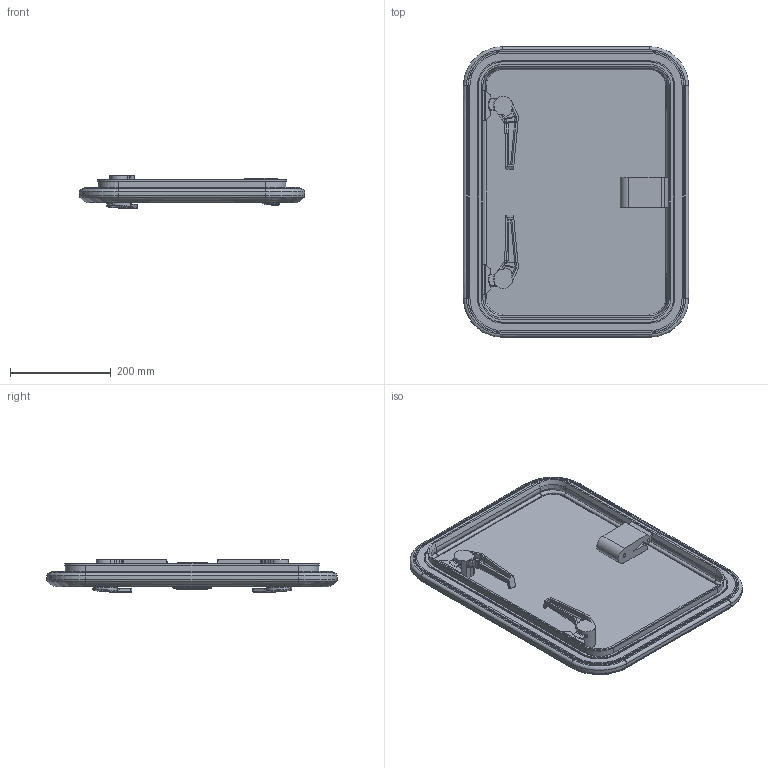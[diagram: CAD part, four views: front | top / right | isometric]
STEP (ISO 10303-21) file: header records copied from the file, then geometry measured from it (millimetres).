
FILE_DESCRIPTION((''),'2;1');
FILE_NAME('LEWMAR-HATCH-MEDPRO-50_ASM','2008-02-04T',('skennedy'),(''),'PRO/ENGINEER BY PARAMETRIC TECHNOLOGY CORPORATION, 2007030','PRO/ENGINEER BY PARAMETRIC TECHNOLOGY CORPORATION, 2007030','');
FILE_SCHEMA(('CONFIG_CONTROL_DESIGN'));
Length unit declared in the file: millimetre
Products named in the file (6): FRAME_MP_50; 3595043X; HANDLE_LHS; HANDLE_RHS; HINGE_LEVER; LEWMAR-HATCH-MEDPRO-50_ASM
Assembly tree (5 placements, depth 2):
  LEWMAR-HATCH-MEDPRO-50_ASM
    FRAME_MP_50
    3595043X
    HANDLE_LHS
    HANDLE_RHS
    HINGE_LEVER
Bounding box: 448 x 578 x 65.24 mm (x, y, z)
Volume: 2763348.7 mm3; surface area: 909563.4 mm2
Topology: 3 solids, 5 shells, 991 faces, 2530 edges, 1562 vertices
Faces by surface type: plane 368, bspline 299, cylinder 189, torus 43, cone 37, extrusion 35, sphere 20
Entity records: 41393 total; most frequent: CARTESIAN_POINT 19701, ORIENTED_EDGE 5026, DIRECTION 3548, EDGE_CURVE 2515, VERTEX_POINT 1562, AXIS2_PLACEMENT_3D 1218, VECTOR 1112, LINE 1077
